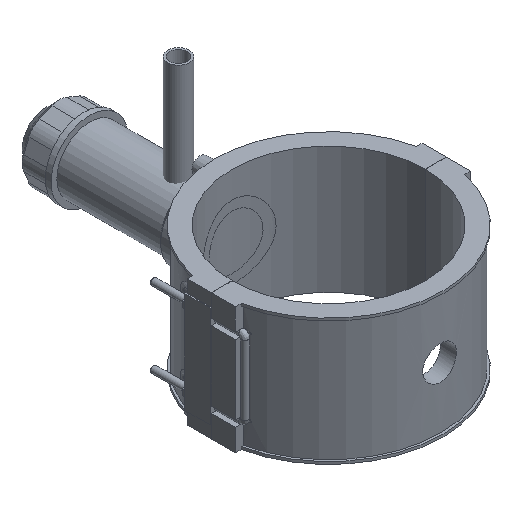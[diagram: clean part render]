
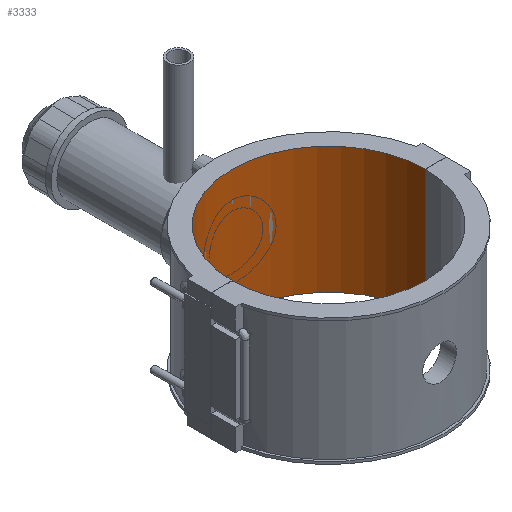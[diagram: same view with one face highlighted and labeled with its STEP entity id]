
A CAD part, isometric view. The second image highlights one B-rep face of the part: STEP entity #3333.
In plain terms, the highlighted cylindrical face has radius 90 mm (diameter 180 mm), a partial arc.
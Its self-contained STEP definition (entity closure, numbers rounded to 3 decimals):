
#263=CIRCLE('',#3616,90.);
#264=CIRCLE('',#3618,90.);
#444=FACE_OUTER_BOUND('',#657,.T.);
#657=EDGE_LOOP('',(#2828,#2829,#2830,#2831));
#902=LINE('',#6239,#1198);
#936=LINE('',#6554,#1232);
#1198=VECTOR('',#4189,10.);
#1232=VECTOR('',#4325,10.);
#1572=VERTEX_POINT('',#6236);
#1573=VERTEX_POINT('',#6238);
#1608=VERTEX_POINT('',#6551);
#1609=VERTEX_POINT('',#6553);
#1972=EDGE_CURVE('',#1573,#1572,#902,.T.);
#2036=EDGE_CURVE('',#1609,#1608,#936,.T.);
#2039=EDGE_CURVE('',#1573,#1608,#263,.T.);
#2040=EDGE_CURVE('',#1609,#1572,#264,.T.);
#2828=ORIENTED_EDGE('',*,*,#2036,.T.);
#2829=ORIENTED_EDGE('',*,*,#2039,.F.);
#2830=ORIENTED_EDGE('',*,*,#1972,.T.);
#2831=ORIENTED_EDGE('',*,*,#2040,.F.);
#3188=CYLINDRICAL_SURFACE('',#3619,90.);
#3333=ADVANCED_FACE('',(#444),#3188,.F.);
#3616=AXIS2_PLACEMENT_3D('',#6559,#4330,#4331);
#3618=AXIS2_PLACEMENT_3D('',#6561,#4334,#4335);
#3619=AXIS2_PLACEMENT_3D('',#6563,#4337,#4338);
#4189=DIRECTION('',(0.,0.,-1.));
#4325=DIRECTION('',(0.,0.,1.));
#4330=DIRECTION('center_axis',(0.,0.,-1.));
#4331=DIRECTION('ref_axis',(-1.,0.,0.));
#4334=DIRECTION('center_axis',(0.,0.,1.));
#4335=DIRECTION('ref_axis',(-1.,0.,0.));
#4337=DIRECTION('center_axis',(0.,0.,1.));
#4338=DIRECTION('ref_axis',(-1.,0.,0.));
#6236=CARTESIAN_POINT('',(-90.,0.05,-59.));
#6238=CARTESIAN_POINT('',(-90.,0.05,59.));
#6239=CARTESIAN_POINT('',(-90.,0.05,0.));
#6551=CARTESIAN_POINT('',(90.,0.05,59.));
#6553=CARTESIAN_POINT('',(90.,0.05,-59.));
#6554=CARTESIAN_POINT('',(90.,0.05,0.));
#6559=CARTESIAN_POINT('Origin',(0.,0.,59.));
#6561=CARTESIAN_POINT('Origin',(0.,0.,-59.));
#6563=CARTESIAN_POINT('Origin',(0.,0.,0.));
